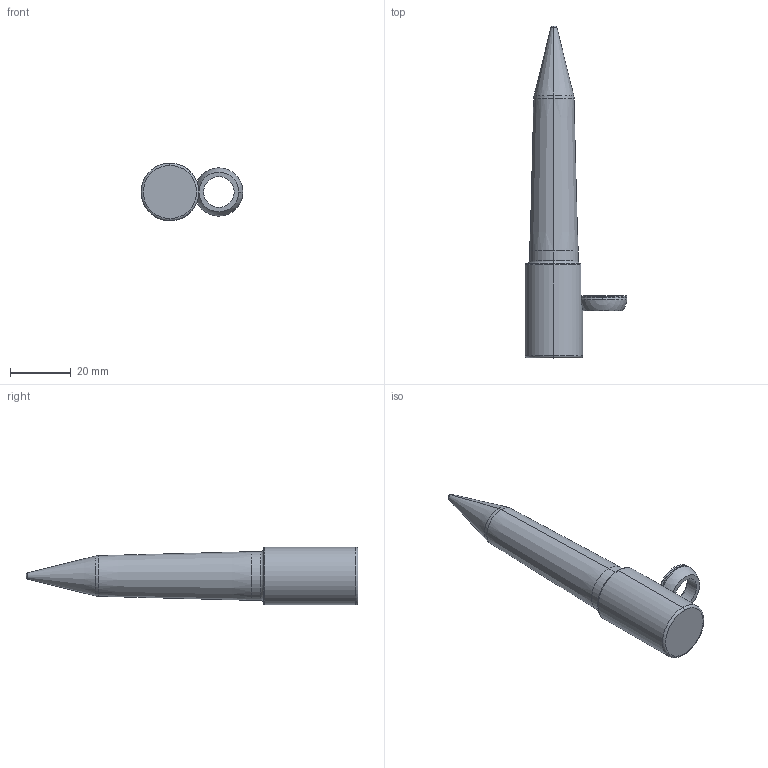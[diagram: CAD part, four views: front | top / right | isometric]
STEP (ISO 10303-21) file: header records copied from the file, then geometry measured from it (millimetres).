
FILE_DESCRIPTION (( 'STEP AP214' ), '1' );
FILE_NAME ('PA-T-16mm-3.2mm-50mm-3-A-F1.STEP', '2019-05-08T18:08:30', ( '' ), ( '' ), 'SwSTEP 2.0', 'SolidWorks 2017', '' );
FILE_SCHEMA (( 'AUTOMOTIVE_DESIGN' ));
Length unit declared in the file: inch
Products named in the file (3): SLRadiusWasher_RadiusWasher-M; PA-T-16mm-3.2mm-50mm-3-A-F1; SLPilot-PA-T-M_PA-T-16-3.2-50-3-A-F1
Assembly tree (2 placements, depth 2):
  PA-T-16mm-3.2mm-50mm-3-A-F1
    SLRadiusWasher_RadiusWasher-M
    SLPilot-PA-T-M_PA-T-16-3.2-50-3-A-F1
Bounding box: 33.54 x 109.18 x 19 mm (x, y, z)
Volume: 19863 mm3; surface area: 5850.6 mm2
Topology: 2 solids, 2 shells, 41 faces, 89 edges, 52 vertices
Faces by surface type: torus 15, cylinder 11, cone 6, plane 5, sphere 4
Entity records: 1316 total; most frequent: CARTESIAN_POINT 252, DIRECTION 242, ORIENTED_EDGE 178, AXIS2_PLACEMENT_3D 112, EDGE_CURVE 89, CIRCLE 66, VERTEX_POINT 52, EDGE_LOOP 43
